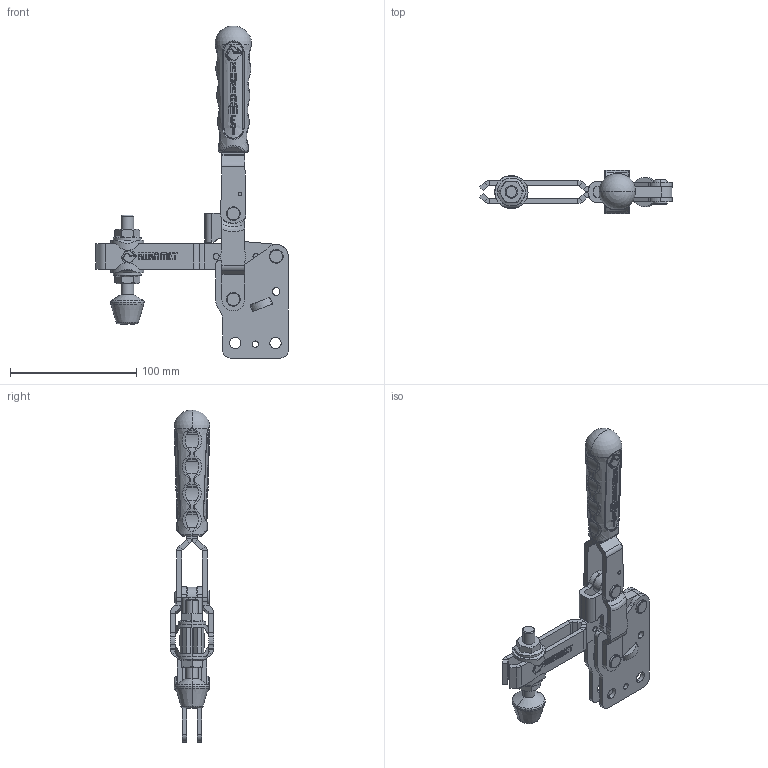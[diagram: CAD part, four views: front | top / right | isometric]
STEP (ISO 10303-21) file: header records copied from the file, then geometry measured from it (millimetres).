
FILE_DESCRIPTION(('STEP AP203'),'1');
FILE_NAME('212-4.stp','2023-09-12T08:55:32',('TraceParts'),('TraceParts S.A.'),'Spatial InterOp 3D',' ',' ');
FILE_SCHEMA(('CONFIG_CONTROL_DESIGN'));
Length unit declared in the file: millimetre
Products named in the file (1): 1
Bounding box: 152.5 x 34.2 x 263.17 mm (x, y, z)
Volume: 155761.2 mm3; surface area: 73595.8 mm2
Topology: 8 solids, 17 shells, 2115 faces, 5340 edges, 3205 vertices
Faces by surface type: cylinder 740, plane 607, bspline 552, cone 102, torus 102, sphere 10, extrusion 2
Entity records: 81145 total; most frequent: CARTESIAN_POINT 34788, ORIENTED_EDGE 10460, DIRECTION 8693, EDGE_CURVE 5230, AXIS2_PLACEMENT_3D 3410, VERTEX_POINT 3205, EDGE_LOOP 2239, ADVANCED_FACE 2115
